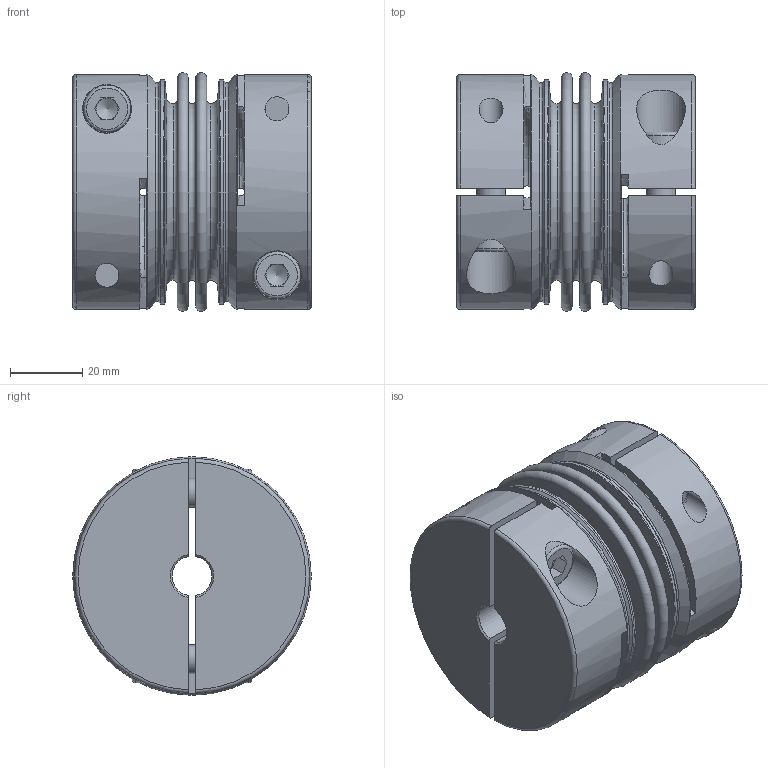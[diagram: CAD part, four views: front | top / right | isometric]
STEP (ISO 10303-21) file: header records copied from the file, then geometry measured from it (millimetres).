
FILE_DESCRIPTION(/* description */ ('Unknown','CAx-IF Rec.Pracs.---Representation and Presentation of Product Manufacturing Information (PMI)---4.0---2014-10-13','CAx-IF Rec.Pracs.---3D Tessellated Geometry---0.4---2014-09-14','2;1'),/* implementation_level */ '2;1');
FILE_NAME(/* name */ 'KG-HS 80-2W',/* time_stamp */ '2022-11-25T11:43:51+01:00',/* author */ ('Unknown'),/* organization */ ('Unknown'),/* preprocessor_version */ 'ST-DEVELOPER v18.102',/* originating_system */ 'Solid Edge',/* authorisation */ 'Unknown');
FILE_SCHEMA (('AP242_MANAGED_MODEL_BASED_3D_ENGINEERING_MIM_LF { 1 0 10303 442 1 1 4 }'));
Length unit declared in the file: millimetre
Products named in the file (1): 04824563
Bounding box: 66 x 66 x 66 mm (x, y, z)
Volume: 129131.3 mm3; surface area: 57547.5 mm2
Topology: 1 solids, 1 shells, 186 faces, 443 edges, 283 vertices
Faces by surface type: plane 94, cylinder 42, torus 30, cone 20
Full cylindrical faces by diameter (mm): 6.647 x8, 8 x4, 8.5 x4, 13 x4, 13.5 x4, 61.6 x2, 62 x2, 65 x2
Entity records: 6800 total; most frequent: CARTESIAN_POINT 1518, DIRECTION 848, ORIENTED_EDGE 704, AXIS2_PLACEMENT_3D 356, EDGE_CURVE 352, FACE_BOUND 288, EDGE_LOOP 284, VERTEX_POINT 260
